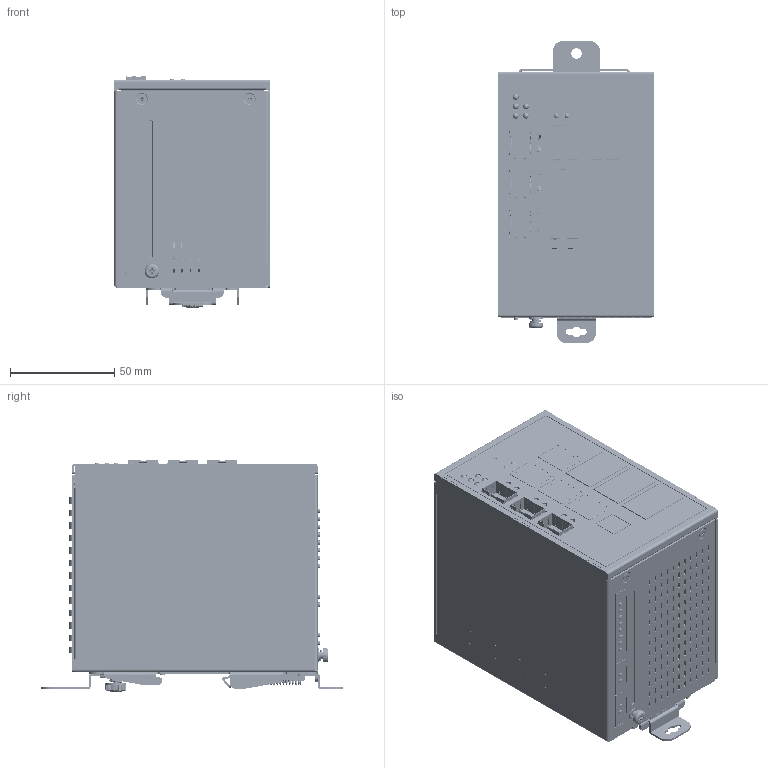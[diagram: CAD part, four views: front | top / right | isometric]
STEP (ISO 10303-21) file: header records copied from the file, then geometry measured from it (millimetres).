
FILE_DESCRIPTION((''),'2;1');
FILE_NAME('DVS-110W02-3SFP_ASM','2014-12-08T',('ANDREW.AS.SUN'),(''),'PRO/ENGINEER BY PARAMETRIC TECHNOLOGY CORPORATION, 2010280','PRO/ENGINEER BY PARAMETRIC TECHNOLOGY CORPORATION, 2010280','');
FILE_SCHEMA(('CONFIG_CONTROL_DESIGN'));
Products named in the file (140): 3991137800_BASE; STUD_M3_0_3; STUD_M3_0-S_3; 3991137800_BASE-ASSY_ASM; 3991137700_COVER; 3991138000_PANEL_D; PCB-M-8P; 145224712137-CAPACITOR; POWER-PIN-08; POWER-PIN-02; 0720133455-CHIDINCHI; SFP-C-1367073-01-G-3D; 3460511900_011AD-001; MT-SDPL003; SFP-ASSY_ASM; LA112B-2G-PF-2LED; LA112B-2G-PF-1LED; 2X20-PIN-HEADER-FEMALE; 2812113912-LINE-FILTER; _DVS-110W02-3SFP_PWR_TOP_201211; _DVS-110W02-3SFP_PWR_BOT_201211; PWR-PCB_ASM; PCB-GIGA; RJM_1PORT__D______-5; PW-XRJM-4PORT-INSERT_3-2-13; LED1-5; RJM_1PORT___NN__K_____LED_O____; 307228297C-1-PORTRJ45_ASM; 1-2_TS-27H-B_; 307234656B_G3700-4ANT1S1W; 2X20-PIN-HEADER-MALE; CHIP-GST5009M; _DVS-110W02-3SFP_GB_20121115_TO; _DVS-110W02-3SFP_GB_20121115_BO; 3347099401_HSK; GIGA-PCB_ASM; PCB-M-16P; 307246537C-2-STAND-RJ45; DVS-110W02-3SFP_MAIN_1115_TOP; DVS-110W02-3SFP_MAIN_1115_BOT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
Assembly tree (1152 placements, depth 4):
  DVS-110W02-3SFP_ASM
    3991137800_BASE-ASSY_ASM
      3991137800_BASE
      STUD_M3_0_3  x2
      STUD_M3_0-S_3  x2
    3991137700_COVER
    3991138000_PANEL_D
    PWR-PCB_ASM
      PCB-M-8P
      145224712137-CAPACITOR  x4
      POWER-PIN-08
      POWER-PIN-02  x2
      0720133455-CHIDINCHI  x2
      SFP-ASSY_ASM  x3
        SFP-C-1367073-01-G-3D
        3460511900_011AD-001
        MT-SDPL003
      LA112B-2G-PF-2LED  x2
      LA112B-2G-PF-1LED
      2X20-PIN-HEADER-FEMALE  x2
      2812113912-LINE-FILTER
      _DVS-110W02-3SFP_PWR_TOP_201211
      _DVS-110W02-3SFP_PWR_BOT_201211
    GIGA-PCB_ASM
      PCB-GIGA
      307228297C-1-PORTRJ45_ASM  x3
        RJM_1PORT__D______-5
        PW-XRJM-4PORT-INSERT_3-2-13
        LED1-5
        RJM_1PORT___NN__K_____LED_O____
      1-2_TS-27H-B_
      307234656B_G3700-4ANT1S1W
      LA112B-2G-PF-2LED
      2X20-PIN-HEADER-MALE  x2
      2X20-PIN-HEADER-FEMALE  x2
      CHIP-GST5009M  x3
      _DVS-110W02-3SFP_GB_20121115_TO
      _DVS-110W02-3SFP_GB_20121115_BO
      3347099401_HSK
    MAIN-PCB_ASM
      PCB-M-16P
      307228297C-1-PORTRJ45_ASM
        RJM_1PORT__D______-5
        PW-XRJM-4PORT-INSERT_3-2-13
        LED1-5  x2
        RJM_1PORT___NN__K_____LED_O____
      307246537C-2-STAND-RJ45  x3
      2X20-PIN-HEADER-MALE  x2
      DVS-110W02-3SFP_MAIN_1115_TOP
      DVS-110W02-3SFP_MAIN_1115_BOT
    STAND_OFF_18  x8
    3105460500  x10
    SCREW_M4
    3242248500_INSULATOR
    3205266202-NAMEPLATE
    DVS-110W02-3SFP_2976442000_PB_B_ASM
      DVS-110W02-3SFP_2976442000_PB_B
      CNSH2X20AA-1D27B  x2
      GDTS2R044X050X050-3D9  x2
      TD_L6
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Bounding box: 75.4 x 145.3 x 111.08 mm (x, y, z)
Volume: 400035.9 mm3; surface area: 495283.1 mm2
Topology: 1320 solids, 1363 shells, 30357 faces, 79994 edges, 52051 vertices
Faces by surface type: plane 22836, cylinder 6721, bspline 289, torus 218, cone 208, extrusion 51, sphere 34
Entity records: 341839 total; most frequent: CARTESIAN_POINT 77640, DIRECTION 54786, ORIENTED_EDGE 52950, EDGE_CURVE 26707, VECTOR 20800, LINE 20769, VERTEX_POINT 17219, AXIS2_PLACEMENT_3D 16993
